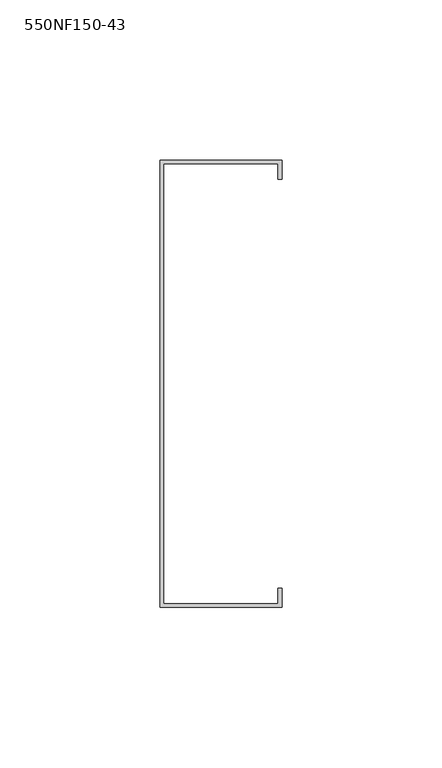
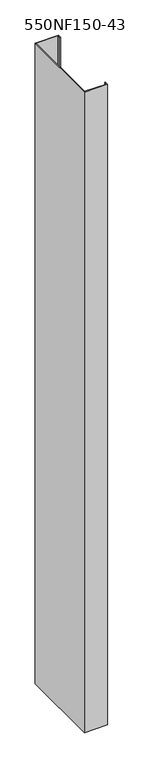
"""IFC4 building model written with IfcOpenShell, lengths in millimetres: column geometry, BIMSF-SSMA-S-Column : 550NF150-43."""

from ifc_helpers import new_model, si_unit, frame, origin, place, context, project, spatial, polyline, outline, extrude, source, transform, mapped, element, save


def column_550nf150_43_7f698803(model_context):
    return source(origin(), model_context, "Body", "SweptSolid", [
        extrude(outline(polyline([(-11.9977877, -80.5871249), (-11.9977877, 59.1128751), (26.1022123, 59.1128751), (26.1022123, 53.1879908), (24.952528, 53.1879908), (24.952528, 57.9631908), (-10.8481035, 57.9631908), (-10.8481035, -79.4374407), (24.952528, -79.4374407), (24.952528, -74.6622407), (26.1022123, -74.6622407), (26.1022123, -80.5871249), (-11.9977877, -80.5871249)])), frame((0.0, 0.0, 5525.3929688), z_axis=(0.0, 0.0, 1.0), x_axis=(1.0, 0.0, 0.0)), (0.0, 0.0, 1.0), 1107.8427909),
    ])


if __name__ == "__main__":
    model = new_model("IFC4")
    model_context = context("Model", 3, world=origin())
    ifc_project = project(units=[si_unit("LENGTHUNIT", "METRE", prefix="MILLI")], contexts=[model_context])
    site = spatial("IfcSite", under=ifc_project)
    building = spatial("IfcBuilding", under=site)
    placement = place(None, origin())
    column_550nf150_43_shape = column_550nf150_43_7f698803(model_context)
    element("IfcColumn", 1, ObjectType="BIMSF-SSMA-S-Column : 550NF150-43", at=placement, inside=building, context=model_context, shape_type="MappedRepresentation", body=[
        mapped(column_550nf150_43_shape, transform((0.0, 0.0, 0.0), x_axis=(1.0, 0.0, 0.0), y_axis=(0.0, 1.0, 0.0), z_axis=(0.0, 0.0, 1.0))),
    ])
    save(model, "model.ifc")
